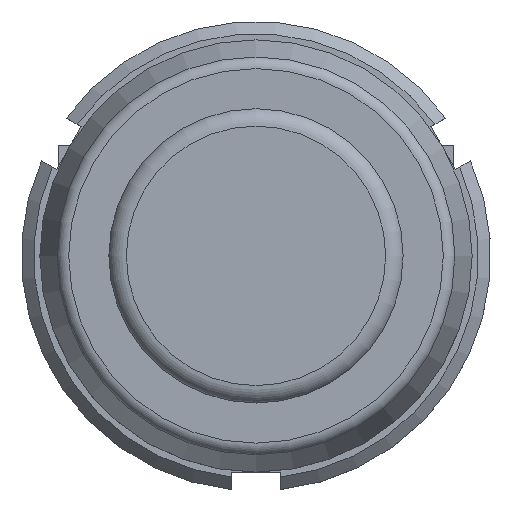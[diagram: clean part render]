
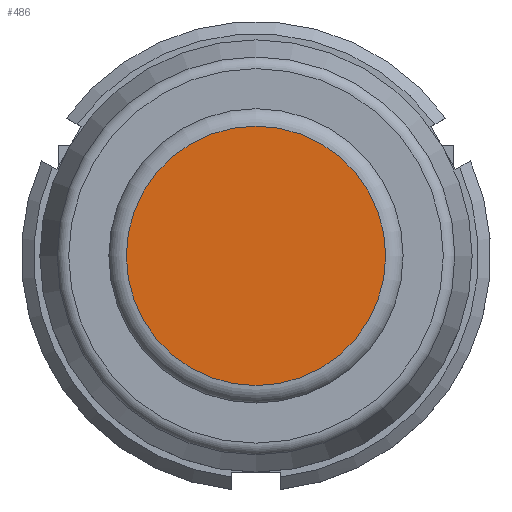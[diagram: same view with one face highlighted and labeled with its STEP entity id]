
A CAD part, top view. The second image highlights one B-rep face of the part: STEP entity #486.
In plain terms, the highlighted planar face has unit normal (0, 0, 1).
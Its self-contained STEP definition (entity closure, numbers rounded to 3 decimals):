
#463=CARTESIAN_POINT('',(-10.5,0.0,54.5));
#464=VERTEX_POINT('',#463);
#465=CARTESIAN_POINT('',(0.0,0.0,54.5));
#466=DIRECTION('',(0.0,0.0,1.0));
#467=DIRECTION('',(-1.0,0.0,0.0));
#468=AXIS2_PLACEMENT_3D('',#465,#466,#467);
#469=CIRCLE('',#468,10.5);
#470=EDGE_CURVE('',#464,#464,#469,.T.);
#478=CARTESIAN_POINT('',(-5.25,0.0,54.5));
#479=DIRECTION('',(0.0,0.0,1.0));
#480=DIRECTION('',(1.0,0.0,0.0));
#481=AXIS2_PLACEMENT_3D('',#478,#479,#480);
#482=PLANE('',#481);
#483=ORIENTED_EDGE('',*,*,#470,.T.);
#484=EDGE_LOOP('',(#483));
#485=FACE_OUTER_BOUND('',#484,.T.);
#486=ADVANCED_FACE('',(#485),#482,.T.);
